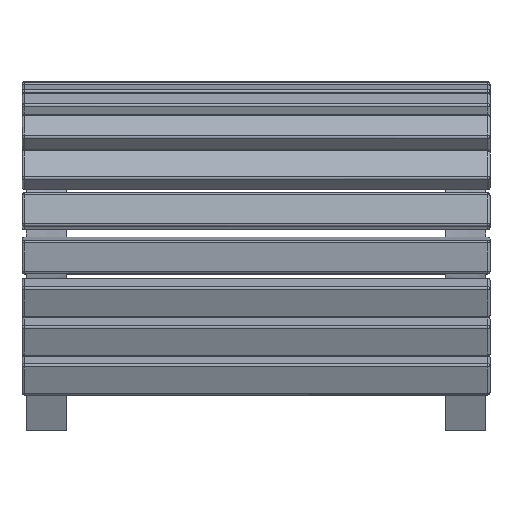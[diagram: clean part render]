
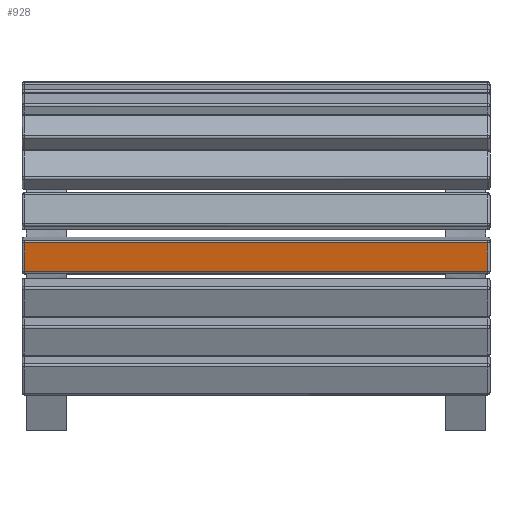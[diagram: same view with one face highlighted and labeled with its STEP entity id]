
A CAD part, front view. The second image highlights one B-rep face of the part: STEP entity #928.
In plain terms, the highlighted planar face has unit normal (0, -0.99, -0.144).
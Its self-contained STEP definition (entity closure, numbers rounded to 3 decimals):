
#928=ADVANCED_FACE('',(#1800),#10524,.T.);
#1800=FACE_OUTER_BOUND('',#2620,.T.);
#2620=EDGE_LOOP('',(#5085,#5086,#5087,#5088));
#5085=ORIENTED_EDGE('',*,*,#7055,.F.);
#5086=ORIENTED_EDGE('',*,*,#7053,.F.);
#5087=ORIENTED_EDGE('',*,*,#7056,.F.);
#5088=ORIENTED_EDGE('',*,*,#7054,.F.);
#7053=EDGE_CURVE('',#9602,#9601,#8817,.T.);
#7054=EDGE_CURVE('',#9603,#9604,#8818,.T.);
#7055=EDGE_CURVE('',#9601,#9603,#8819,.T.);
#7056=EDGE_CURVE('',#9604,#9602,#8820,.T.);
#8817=B_SPLINE_CURVE_WITH_KNOTS('',1,(#21602,#21603),.UNSPECIFIED.,.F.,
 .F.,(2,2),(-43.2,14.2),.UNSPECIFIED.);
#8818=B_SPLINE_CURVE_WITH_KNOTS('',1,(#21604,#21605),.UNSPECIFIED.,.F.,
 .F.,(2,2),(-43.2,14.2),.UNSPECIFIED.);
#8819=B_SPLINE_CURVE_WITH_KNOTS('',1,(#21606,#21607),.UNSPECIFIED.,.F.,
 .F.,(2,2),(-2.85,0.75),.UNSPECIFIED.);
#8820=B_SPLINE_CURVE_WITH_KNOTS('',1,(#21608,#21609),.UNSPECIFIED.,.F.,
 .F.,(2,2),(-2.85,0.75),.UNSPECIFIED.);
#9601=VERTEX_POINT('',#21574);
#9602=VERTEX_POINT('',#21575);
#9603=VERTEX_POINT('',#21576);
#9604=VERTEX_POINT('',#21577);
#10524=PLANE('',#10720);
#10720=AXIS2_PLACEMENT_3D('',#21421,#10899,$);
#10899=DIRECTION('',(0.,-0.99,-0.144));
#21421=CARTESIAN_POINT('',(577.01,5.205,196.755));
#21574=CARTESIAN_POINT('',(3.,5.204,196.765));
#21575=CARTESIAN_POINT('',(577.,5.204,196.765));
#21576=CARTESIAN_POINT('',(3.,0.031,232.391));
#21577=CARTESIAN_POINT('',(577.,0.031,232.391));
#21602=CARTESIAN_POINT('',(577.,5.204,196.765));
#21603=CARTESIAN_POINT('',(3.,5.204,196.765));
#21604=CARTESIAN_POINT('',(3.,0.031,232.391));
#21605=CARTESIAN_POINT('',(577.,0.031,232.391));
#21606=CARTESIAN_POINT('',(3.,5.204,196.765));
#21607=CARTESIAN_POINT('',(3.,0.031,232.391));
#21608=CARTESIAN_POINT('',(577.,0.031,232.391));
#21609=CARTESIAN_POINT('',(577.,5.204,196.765));
